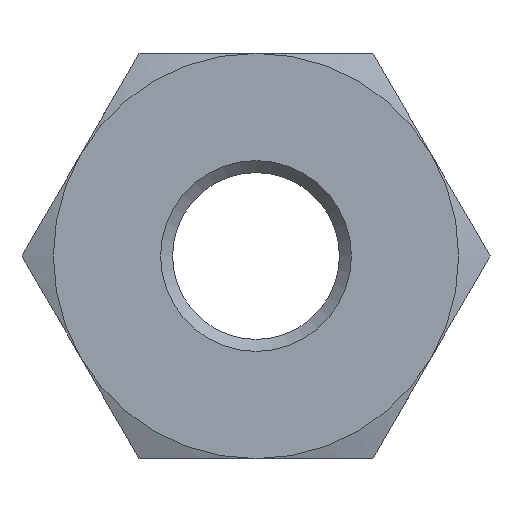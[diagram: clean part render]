
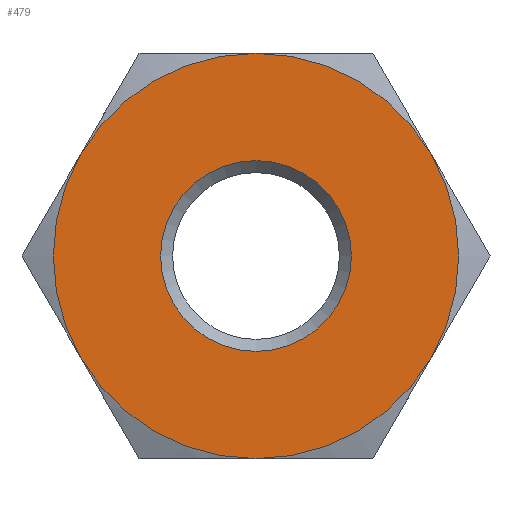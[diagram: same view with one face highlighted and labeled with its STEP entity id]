
A CAD part, left-side view. The second image highlights one B-rep face of the part: STEP entity #479.
In plain terms, the highlighted planar face has unit normal (-1, 0, 0).
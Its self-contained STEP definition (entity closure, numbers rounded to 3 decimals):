
#23=FACE_BOUND('',#137,.T.);
#30=CIRCLE('',#522,8.5);
#31=CIRCLE('',#524,8.5);
#32=CIRCLE('',#526,8.5);
#33=CIRCLE('',#528,8.5);
#34=CIRCLE('',#530,8.5);
#35=CIRCLE('',#532,8.5);
#53=CIRCLE('',#563,4.);
#102=FACE_OUTER_BOUND('',#136,.T.);
#136=EDGE_LOOP('',(#432,#433,#434,#435,#436,#437));
#137=EDGE_LOOP('',(#438));
#195=VERTEX_POINT('',#715);
#201=VERTEX_POINT('',#736);
#205=VERTEX_POINT('',#754);
#208=VERTEX_POINT('',#773);
#212=VERTEX_POINT('',#791);
#215=VERTEX_POINT('',#808);
#231=VERTEX_POINT('',#892);
#268=EDGE_CURVE('',#195,#205,#30,.T.);
#269=EDGE_CURVE('',#215,#195,#31,.T.);
#270=EDGE_CURVE('',#212,#215,#32,.T.);
#271=EDGE_CURVE('',#208,#212,#33,.T.);
#272=EDGE_CURVE('',#201,#208,#34,.T.);
#273=EDGE_CURVE('',#205,#201,#35,.T.);
#300=EDGE_CURVE('',#231,#231,#53,.T.);
#432=ORIENTED_EDGE('',*,*,#270,.F.);
#433=ORIENTED_EDGE('',*,*,#271,.F.);
#434=ORIENTED_EDGE('',*,*,#272,.F.);
#435=ORIENTED_EDGE('',*,*,#273,.F.);
#436=ORIENTED_EDGE('',*,*,#268,.F.);
#437=ORIENTED_EDGE('',*,*,#269,.F.);
#438=ORIENTED_EDGE('',*,*,#300,.T.);
#447=PLANE('',#564);
#479=ADVANCED_FACE('',(#102,#23),#447,.T.);
#522=AXIS2_PLACEMENT_3D('',#828,#611,#612);
#524=AXIS2_PLACEMENT_3D('',#830,#615,#616);
#526=AXIS2_PLACEMENT_3D('',#832,#619,#620);
#528=AXIS2_PLACEMENT_3D('',#834,#623,#624);
#530=AXIS2_PLACEMENT_3D('',#836,#627,#628);
#532=AXIS2_PLACEMENT_3D('',#838,#631,#632);
#563=AXIS2_PLACEMENT_3D('',#894,#702,#703);
#564=AXIS2_PLACEMENT_3D('',#895,#704,#705);
#611=DIRECTION('center_axis',(1.,0.,0.));
#612=DIRECTION('ref_axis',(0.,0.,-1.));
#615=DIRECTION('center_axis',(1.,0.,0.));
#616=DIRECTION('ref_axis',(0.,0.,-1.));
#619=DIRECTION('center_axis',(1.,0.,0.));
#620=DIRECTION('ref_axis',(0.,0.,-1.));
#623=DIRECTION('center_axis',(1.,0.,0.));
#624=DIRECTION('ref_axis',(0.,0.,-1.));
#627=DIRECTION('center_axis',(1.,0.,0.));
#628=DIRECTION('ref_axis',(0.,0.,-1.));
#631=DIRECTION('center_axis',(1.,0.,0.));
#632=DIRECTION('ref_axis',(0.,0.,-1.));
#702=DIRECTION('center_axis',(1.,0.,0.));
#703=DIRECTION('ref_axis',(0.,0.,-1.));
#704=DIRECTION('center_axis',(-1.,0.,0.));
#705=DIRECTION('ref_axis',(0.,0.,1.));
#715=CARTESIAN_POINT('',(-11.056,0.,8.5));
#736=CARTESIAN_POINT('',(-11.056,-7.361,-4.25));
#754=CARTESIAN_POINT('',(-11.056,-7.361,4.25));
#773=CARTESIAN_POINT('',(-11.056,0.,-8.5));
#791=CARTESIAN_POINT('',(-11.056,7.361,-4.25));
#808=CARTESIAN_POINT('',(-11.056,7.361,4.25));
#828=CARTESIAN_POINT('Origin',(-11.056,0.,0.));
#830=CARTESIAN_POINT('Origin',(-11.056,0.,0.));
#832=CARTESIAN_POINT('Origin',(-11.056,0.,0.));
#834=CARTESIAN_POINT('Origin',(-11.056,0.,0.));
#836=CARTESIAN_POINT('Origin',(-11.056,0.,0.));
#838=CARTESIAN_POINT('Origin',(-11.056,0.,0.));
#892=CARTESIAN_POINT('',(-11.056,-4.,0.));
#894=CARTESIAN_POINT('Origin',(-11.056,0.,0.));
#895=CARTESIAN_POINT('Origin',(-11.056,8.5,0.));
